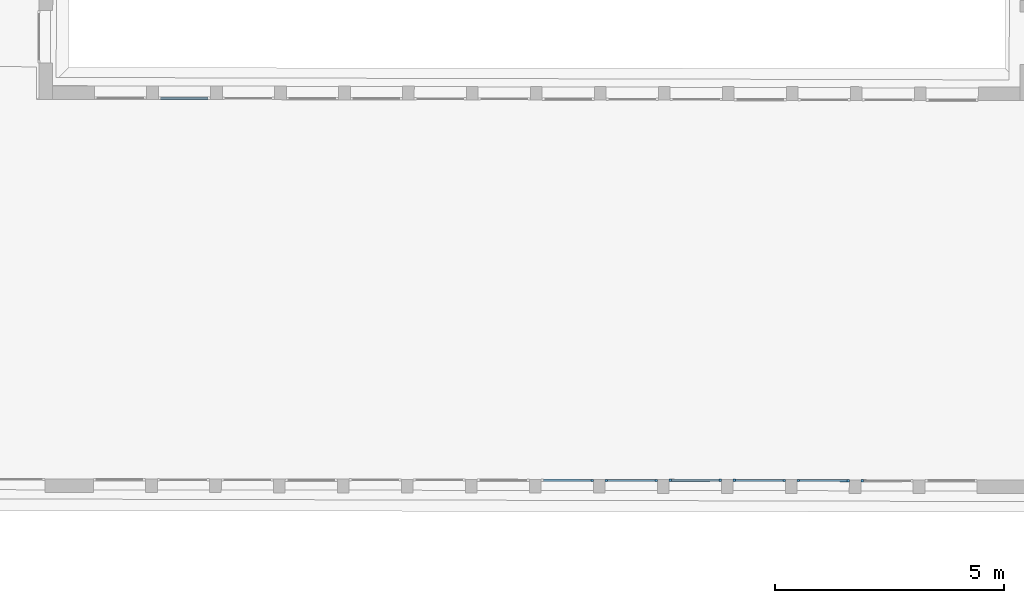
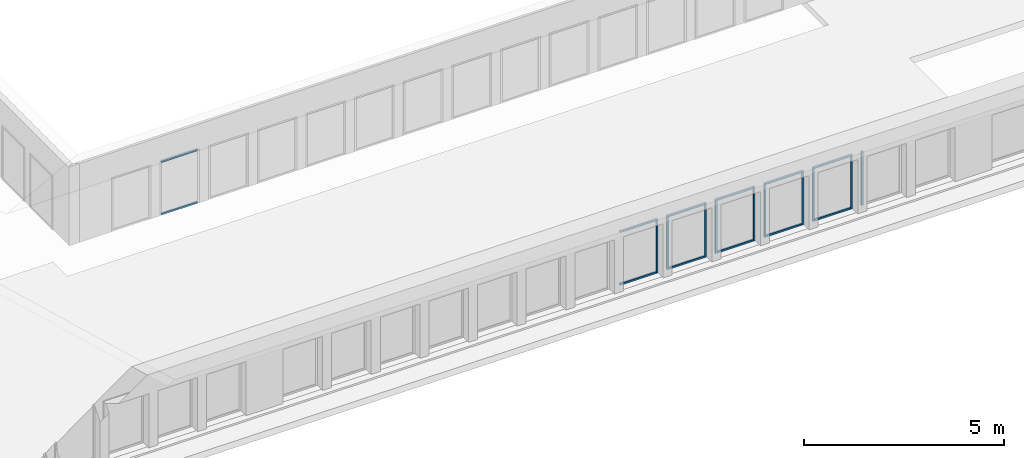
# One storey, part 5 of 26: 22 members, 7 elements without a shape of their own.
"""IFC2X3 building model written with IfcOpenShell, lengths in metres."""

from ifc_helpers import new_model, entity, si_unit, converted_unit, derived_unit, direction, frame, origin, origin_2d_with_axis, place, context, subcontext, project, spatial, rectangle, extrude, source, transform, mapped, material, type_object, type_shapes, element, aggregate, save


model = new_model("IFC2X3")

# Units and contexts
model_context = context("Model", 3, precision=1e-05, world=origin(), true_north=direction((6.123233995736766e-17, 1.0)))
body_context = subcontext(model_context, "Body", "Model", "MODEL_VIEW")
ifc_project = project(units=[si_unit("LENGTHUNIT", "METRE"), si_unit("AREAUNIT", "SQUARE_METRE"), converted_unit("PLANEANGLEUNIT", "DEGREE", entity("IfcPlaneAngleMeasure", 0.017453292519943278), si_unit("PLANEANGLEUNIT", "RADIAN"), dimensions=[0, 0, 0, 0, 0, 0, 0]), derived_unit("THERMALTRANSMITTANCEUNIT", [(si_unit("MASSUNIT", "GRAM", prefix="KILO"), 1), (si_unit("THERMODYNAMICTEMPERATUREUNIT", "KELVIN"), -1), (si_unit("TIMEUNIT", "SECOND"), -3)])], contexts=[model_context])

# Site, building, storey
site_placement = place(None, frame((1253.6752467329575, 2072.143113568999, 91.49999999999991), z_axis=(0.0, 0.0, 1.0), x_axis=(0.7237211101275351, 0.6900925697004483, 0.0)))
site = spatial("IfcSite", under=ifc_project, at=site_placement, Name="Surface", CompositionType="ELEMENT")
building_placement = place(site_placement, origin())
building = spatial("IfcBuilding", under=site, at=building_placement, CompositionType="ELEMENT")
storey_placement = place(building_placement, frame((0.0, 0.0, 7.0)))
storey = spatial("IfcBuildingStorey", under=building, at=storey_placement, Name="2-R+2", CompositionType="ELEMENT", Elevation=6.999999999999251)

# Curtain wall, member
curtain_wall_type = type_object("IfcCurtainWallType", Name="Mur-rideau:Menuiserie Ext 1F+1OB VERTIC", PredefinedType="NOTDEFINED")
curtain_wall_1_placement = place(storey_placement, frame((0.0, 0.0, -7.0)))
curtain_wall_1 = element("IfcCurtainWall", 1, at=curtain_wall_1_placement, inside=storey, type_object=curtain_wall_type, Name="Mur-rideau:Menuiserie Ext 1F+1OB VERTIC", ObjectType="Mur-rideau:Menuiserie Ext 1F+1OB VERTIC")
ifc_material = material(Name="OMD_Aluminium Men Ext")
member_type_1 = type_object("IfcMemberType", Name="Meneau rectangulaire:50x50", PredefinedType="MULLION", material=ifc_material)
shared_shape_1 = source(origin(), body_context, "Body", "SweptSolid", [
    extrude(rectangle(XDim=0.05, YDim=0.049999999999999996, at=origin_2d_with_axis()), frame((-0.025, 0.0, -1.039999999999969), z_axis=(0.0, 0.0, 1.0), x_axis=(-1.0, 0.0, 0.0)), (0.0, 0.0, 1.0), 1.0399999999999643),
])
type_shapes(member_type_1, [shared_shape_1])
member_1_placement = place(curtain_wall_1_placement, frame((162.31592269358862, -1.481485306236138, 9.55), z_axis=(0.7228702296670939, -0.6909838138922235, 0.0), x_axis=(0.0, 0.0, 1.0)))
member_1 = element("IfcMember", 2, at=member_1_placement, type_object=member_type_1, material=ifc_material, Name="Meneau rectangulaire:50x50", ObjectType="Meneau rectangulaire:50x50", context=body_context, shape_type="MappedRepresentation", body=[
    mapped(shared_shape_1, transform((0.0, 0.0, 0.0), scale=1.0)),
])

curtain_wall_2_placement = place(storey_placement, frame((0.0, 0.0, -7.0)))
curtain_wall_2 = element("IfcCurtainWall", 3, at=curtain_wall_2_placement, inside=storey, type_object=curtain_wall_type, Name="Mur-rideau:Menuiserie Ext 1F+1OB VERTIC", ObjectType="Mur-rideau:Menuiserie Ext 1F+1OB VERTIC")
member_2_placement = place(curtain_wall_2_placement, frame((165.90592023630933, -16.464516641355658, 9.55), z_axis=(-0.7228702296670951, 0.6909838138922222, 0.0), x_axis=(0.0, 0.0, 1.0)))
member_2 = element("IfcMember", 4, at=member_2_placement, type_object=member_type_1, material=ifc_material, Name="Meneau rectangulaire:50x50", ObjectType="Meneau rectangulaire:50x50", context=body_context, shape_type="MappedRepresentation", body=[
    mapped(shared_shape_1, transform((0.0, 0.0, 0.0), scale=1.0)),
])

curtain_wall_3_placement = place(storey_placement, frame((0.0, 0.0, -7.0)))
curtain_wall_3 = element("IfcCurtainWall", 5, at=curtain_wall_3_placement, inside=storey, type_object=curtain_wall_type, Name="Mur-rideau:Menuiserie Ext 1F+1OB VERTIC", ObjectType="Mur-rideau:Menuiserie Ext 1F+1OB VERTIC")
member_3_placement = place(curtain_wall_3_placement, frame((164.89523065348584, -15.49575115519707, 9.55), z_axis=(-0.7228702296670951, 0.6909838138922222, 0.0), x_axis=(0.0, 0.0, 1.0)))
member_3 = element("IfcMember", 6, at=member_3_placement, type_object=member_type_1, material=ifc_material, Name="Meneau rectangulaire:50x50", ObjectType="Meneau rectangulaire:50x50", context=body_context, shape_type="MappedRepresentation", body=[
    mapped(shared_shape_1, transform((0.0, 0.0, 0.0), scale=1.0)),
])

curtain_wall_4_placement = place(storey_placement, frame((0.0, 0.0, -7.0)))
curtain_wall_4 = element("IfcCurtainWall", 7, at=curtain_wall_4_placement, inside=storey, type_object=curtain_wall_type, Name="Mur-rideau:Menuiserie Ext 1F+1OB VERTIC", ObjectType="Mur-rideau:Menuiserie Ext 1F+1OB VERTIC")
member_4_placement = place(curtain_wall_4_placement, frame((163.88454107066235, -14.526985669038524, 9.55), z_axis=(-0.7228702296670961, 0.6909838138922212, 0.0), x_axis=(0.0, 0.0, 1.0)))
member_4 = element("IfcMember", 8, at=member_4_placement, type_object=member_type_1, material=ifc_material, Name="Meneau rectangulaire:50x50", ObjectType="Meneau rectangulaire:50x50", context=body_context, shape_type="MappedRepresentation", body=[
    mapped(shared_shape_1, transform((0.0, 0.0, 0.0), scale=1.0)),
])

curtain_wall_5_placement = place(storey_placement, frame((0.0, 0.0, -7.0)))
curtain_wall_5 = element("IfcCurtainWall", 9, at=curtain_wall_5_placement, inside=storey, type_object=curtain_wall_type, Name="Mur-rideau:Menuiserie Ext 1F+1OB VERTIC", ObjectType="Mur-rideau:Menuiserie Ext 1F+1OB VERTIC")
member_5_placement = place(curtain_wall_5_placement, frame((162.86693173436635, -13.565439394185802, 9.55), z_axis=(-0.7228702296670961, 0.6909838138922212, 0.0), x_axis=(0.0, 0.0, 1.0)))
member_5 = element("IfcMember", 10, at=member_5_placement, type_object=member_type_1, material=ifc_material, Name="Meneau rectangulaire:50x50", ObjectType="Meneau rectangulaire:50x50", context=body_context, shape_type="MappedRepresentation", body=[
    mapped(shared_shape_1, transform((0.0, 0.0, 0.0), scale=1.0)),
])

curtain_wall_6_placement = place(storey_placement, frame((0.0, 0.0, -7.0)))
curtain_wall_6 = element("IfcCurtainWall", 11, at=curtain_wall_6_placement, inside=storey, type_object=curtain_wall_type, Name="Mur-rideau:Menuiserie Ext 1F+1OB VERTIC", ObjectType="Mur-rideau:Menuiserie Ext 1F+1OB VERTIC")
member_6_placement = place(curtain_wall_6_placement, frame((161.85624215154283, -12.596673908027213, 9.55), z_axis=(-0.7228702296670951, 0.6909838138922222, 0.0), x_axis=(0.0, 0.0, 1.0)))
member_6 = element("IfcMember", 12, at=member_6_placement, type_object=member_type_1, material=ifc_material, Name="Meneau rectangulaire:50x50", ObjectType="Meneau rectangulaire:50x50", context=body_context, shape_type="MappedRepresentation", body=[
    mapped(shared_shape_1, transform((0.0, 0.0, 0.0), scale=1.0)),
])

# Member
member_type_2 = type_object("IfcMemberType", Name="Meneau rectangulaire:50x50", PredefinedType="MULLION", material=ifc_material)
shared_shape_2 = source(origin(), body_context, "Body", "SweptSolid", [
    extrude(rectangle(XDim=0.05, YDim=0.05, at=origin_2d_with_axis()), frame((-0.025, 0.0, -1.0399999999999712), z_axis=(0.0, 0.0, 1.0), x_axis=(-1.0, 0.0, 0.0)), (0.0, 0.0, 1.0), 1.0399999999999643),
])
type_shapes(member_type_2, [shared_shape_2])
member_7_placement = place(curtain_wall_1_placement, frame((161.56413765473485, -0.7628621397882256, 7.9), z_axis=(-0.7228702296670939, 0.6909838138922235, 0.0), x_axis=(0.0, 0.0, -1.0)))
member_7 = element("IfcMember", 13, at=member_7_placement, type_object=member_type_2, material=ifc_material, Name="Meneau rectangulaire:50x50", ObjectType="Meneau rectangulaire:50x50", context=body_context, shape_type="MappedRepresentation", body=[
    mapped(shared_shape_2, transform((0.0, 0.0, 0.0), scale=1.0)),
])

aggregate(curtain_wall_1, [member_1, member_7])

member_8_placement = place(curtain_wall_2_placement, frame((166.6577052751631, -17.1831398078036, 7.900000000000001), z_axis=(0.7228702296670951, -0.6909838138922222, 0.0), x_axis=(0.0, 0.0, -1.0)))
member_8 = element("IfcMember", 14, at=member_8_placement, type_object=member_type_2, material=ifc_material, Name="Meneau rectangulaire:50x50", ObjectType="Meneau rectangulaire:50x50", context=body_context, shape_type="MappedRepresentation", body=[
    mapped(shared_shape_2, transform((0.0, 0.0, 0.0), scale=1.0)),
])

member_9_placement = place(curtain_wall_3_placement, frame((165.6470156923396, -16.21437432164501, 7.900000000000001), z_axis=(0.7228702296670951, -0.6909838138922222, 0.0), x_axis=(0.0, 0.0, -1.0)))
member_9 = element("IfcMember", 15, at=member_9_placement, type_object=member_type_2, material=ifc_material, Name="Meneau rectangulaire:50x50", ObjectType="Meneau rectangulaire:50x50", context=body_context, shape_type="MappedRepresentation", body=[
    mapped(shared_shape_2, transform((0.0, 0.0, 0.0), scale=1.0)),
])

member_10_placement = place(curtain_wall_4_placement, frame((164.63632610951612, -15.245608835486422, 7.900000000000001), z_axis=(0.7228702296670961, -0.6909838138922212, 0.0), x_axis=(0.0, 0.0, -1.0)))
member_10 = element("IfcMember", 16, at=member_10_placement, type_object=member_type_2, material=ifc_material, Name="Meneau rectangulaire:50x50", ObjectType="Meneau rectangulaire:50x50", context=body_context, shape_type="MappedRepresentation", body=[
    mapped(shared_shape_2, transform((0.0, 0.0, 0.0), scale=1.0)),
])

member_11_placement = place(curtain_wall_5_placement, frame((163.6187167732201, -14.284062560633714, 7.900000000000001), z_axis=(0.7228702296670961, -0.6909838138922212, 0.0), x_axis=(0.0, 0.0, -1.0)))
member_11 = element("IfcMember", 17, at=member_11_placement, type_object=member_type_2, material=ifc_material, Name="Meneau rectangulaire:50x50", ObjectType="Meneau rectangulaire:50x50", context=body_context, shape_type="MappedRepresentation", body=[
    mapped(shared_shape_2, transform((0.0, 0.0, 0.0), scale=1.0)),
])

member_12_placement = place(curtain_wall_6_placement, frame((162.6080271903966, -13.315297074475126, 7.900000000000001), z_axis=(0.7228702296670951, -0.6909838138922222, 0.0), x_axis=(0.0, 0.0, -1.0)))
member_12 = element("IfcMember", 18, at=member_12_placement, type_object=member_type_2, material=ifc_material, Name="Meneau rectangulaire:50x50", ObjectType="Meneau rectangulaire:50x50", context=body_context, shape_type="MappedRepresentation", body=[
    mapped(shared_shape_2, transform((0.0, 0.0, 0.0), scale=1.0)),
])

# Curtain wall, member
curtain_wall_7_placement = place(storey_placement, frame((0.0, 0.0, -7.0)))
curtain_wall_7 = element("IfcCurtainWall", 19, at=curtain_wall_7_placement, inside=storey, type_object=curtain_wall_type, Name="Mur-rideau:Menuiserie Ext 1F+1OB VERTIC", ObjectType="Mur-rideau:Menuiserie Ext 1F+1OB VERTIC")
member_type_3 = type_object("IfcMemberType", Name="Meneau rectangulaire:50x50", PredefinedType="MULLION", material=ifc_material)
shared_shape_3 = source(origin(), body_context, "Body", "SweptSolid", [
    extrude(rectangle(XDim=0.05, YDim=0.05, at=origin_2d_with_axis()), frame((-0.025, 0.0, -1.6499999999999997), z_axis=(0.0, 0.0, 1.0), x_axis=(-1.0, 0.0, 0.0)), (0.0, 0.0, 1.0), 1.6499999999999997),
])
type_shapes(member_type_3, [shared_shape_3])
member_13_placement = place(curtain_wall_7_placement, frame((166.88046630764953, -17.398732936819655, 7.900000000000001), z_axis=(0.0, 0.0, -1.0), x_axis=(-0.7228702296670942, 0.6909838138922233, 0.0)))
member_13 = element("IfcMember", 20, at=member_13_placement, type_object=member_type_3, material=ifc_material, Name="Meneau rectangulaire:50x50", ObjectType="Meneau rectangulaire:50x50", context=body_context, shape_type="MappedRepresentation", body=[
    mapped(shared_shape_3, transform((0.0, 0.0, 0.0), scale=1.0)),
])
aggregate(curtain_wall_7, [member_13])

# Member
member_14_placement = place(curtain_wall_2_placement, frame((165.86977672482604, -16.429967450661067, 7.900000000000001), z_axis=(0.0, 0.0, -1.0), x_axis=(-0.7228702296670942, 0.6909838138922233, 0.0)))
member_14 = element("IfcMember", 21, at=member_14_placement, type_object=member_type_3, material=ifc_material, Name="Meneau rectangulaire:50x50", ObjectType="Meneau rectangulaire:50x50", context=body_context, shape_type="MappedRepresentation", body=[
    mapped(shared_shape_3, transform((0.0, 0.0, 0.0), scale=1.0)),
])

member_15_placement = place(curtain_wall_3_placement, frame((164.85908714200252, -15.461201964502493, 7.900000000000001), z_axis=(0.0, 0.0, -1.0), x_axis=(-0.7228702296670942, 0.6909838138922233, 0.0)))
member_15 = element("IfcMember", 22, at=member_15_placement, type_object=member_type_3, material=ifc_material, Name="Meneau rectangulaire:50x50", ObjectType="Meneau rectangulaire:50x50", context=body_context, shape_type="MappedRepresentation", body=[
    mapped(shared_shape_3, transform((0.0, 0.0, 0.0), scale=1.0)),
])

member_16_placement = place(curtain_wall_4_placement, frame((163.84839755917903, -14.49243647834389, 7.900000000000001), z_axis=(0.0, 0.0, -1.0), x_axis=(-0.7228702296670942, 0.6909838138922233, 0.0)))
member_16 = element("IfcMember", 23, at=member_16_placement, type_object=member_type_3, material=ifc_material, Name="Meneau rectangulaire:50x50", ObjectType="Meneau rectangulaire:50x50", context=body_context, shape_type="MappedRepresentation", body=[
    mapped(shared_shape_3, transform((0.0, 0.0, 0.0), scale=1.0)),
])

member_17_placement = place(curtain_wall_5_placement, frame((162.83078822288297, -13.530890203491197, 7.900000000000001), z_axis=(0.0, 0.0, -1.0), x_axis=(-0.7228702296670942, 0.6909838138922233, 0.0)))
member_17 = element("IfcMember", 24, at=member_17_placement, type_object=member_type_3, material=ifc_material, Name="Meneau rectangulaire:50x50", ObjectType="Meneau rectangulaire:50x50", context=body_context, shape_type="MappedRepresentation", body=[
    mapped(shared_shape_3, transform((0.0, 0.0, 0.0), scale=1.0)),
])

member_type_4 = type_object("IfcMemberType", Name="Meneau rectangulaire:50x50", PredefinedType="MULLION", material=ifc_material)
shared_shape_4 = source(origin(), body_context, "Body", "SweptSolid", [
    extrude(rectangle(XDim=0.05, YDim=0.05000000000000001, at=origin_2d_with_axis()), frame((-0.025, 0.0, -1.6499999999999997), z_axis=(0.0, 0.0, 1.0), x_axis=(-1.0, 0.0, 0.0)), (0.0, 0.0, 1.0), 1.6499999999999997),
])
type_shapes(member_type_4, [shared_shape_4])
member_18_placement = place(curtain_wall_2_placement, frame((166.6938487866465, -17.217688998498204, 9.55), z_axis=(0.0, 0.0, 1.0), x_axis=(0.7228702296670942, -0.6909838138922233, 0.0)))
member_18 = element("IfcMember", 25, at=member_18_placement, type_object=member_type_4, material=ifc_material, Name="Meneau rectangulaire:50x50", ObjectType="Meneau rectangulaire:50x50", context=body_context, shape_type="MappedRepresentation", body=[
    mapped(shared_shape_4, transform((0.0, 0.0, 0.0), scale=1.0)),
])

aggregate(curtain_wall_2, [member_2, member_8, member_14, member_18])

member_19_placement = place(curtain_wall_3_placement, frame((165.68315920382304, -16.24892351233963, 9.55), z_axis=(0.0, 0.0, 1.0), x_axis=(0.7228702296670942, -0.6909838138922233, 0.0)))
member_19 = element("IfcMember", 26, at=member_19_placement, type_object=member_type_4, material=ifc_material, Name="Meneau rectangulaire:50x50", ObjectType="Meneau rectangulaire:50x50", context=body_context, shape_type="MappedRepresentation", body=[
    mapped(shared_shape_4, transform((0.0, 0.0, 0.0), scale=1.0)),
])

aggregate(curtain_wall_3, [member_3, member_9, member_15, member_19])

member_20_placement = place(curtain_wall_4_placement, frame((164.67246962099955, -15.280158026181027, 9.55), z_axis=(0.0, 0.0, 1.0), x_axis=(0.7228702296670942, -0.6909838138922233, 0.0)))
member_20 = element("IfcMember", 27, at=member_20_placement, type_object=member_type_4, material=ifc_material, Name="Meneau rectangulaire:50x50", ObjectType="Meneau rectangulaire:50x50", context=body_context, shape_type="MappedRepresentation", body=[
    mapped(shared_shape_4, transform((0.0, 0.0, 0.0), scale=1.0)),
])

aggregate(curtain_wall_4, [member_4, member_10, member_16, member_20])

member_21_placement = place(curtain_wall_5_placement, frame((163.6548602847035, -14.318611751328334, 9.55), z_axis=(0.0, 0.0, 1.0), x_axis=(0.7228702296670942, -0.6909838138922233, 0.0)))
member_21 = element("IfcMember", 28, at=member_21_placement, type_object=member_type_4, material=ifc_material, Name="Meneau rectangulaire:50x50", ObjectType="Meneau rectangulaire:50x50", context=body_context, shape_type="MappedRepresentation", body=[
    mapped(shared_shape_4, transform((0.0, 0.0, 0.0), scale=1.0)),
])

aggregate(curtain_wall_5, [member_5, member_11, member_17, member_21])

member_22_placement = place(curtain_wall_6_placement, frame((162.64417070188, -13.349846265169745, 9.55), z_axis=(0.0, 0.0, 1.0), x_axis=(0.7228702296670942, -0.6909838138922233, 0.0)))
member_22 = element("IfcMember", 29, at=member_22_placement, type_object=member_type_4, material=ifc_material, Name="Meneau rectangulaire:50x50", ObjectType="Meneau rectangulaire:50x50", context=body_context, shape_type="MappedRepresentation", body=[
    mapped(shared_shape_4, transform((0.0, 0.0, 0.0), scale=1.0)),
])

aggregate(curtain_wall_6, [member_6, member_12, member_22])

save(model, "model.ifc")
